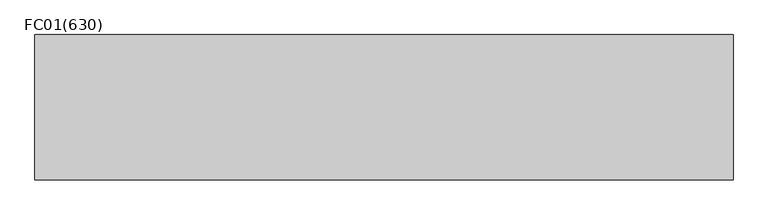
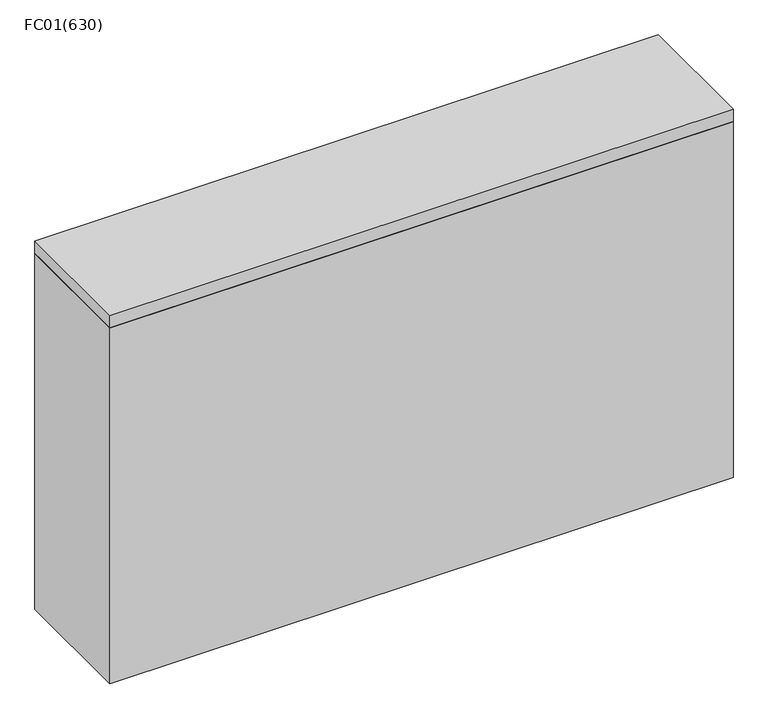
"""IFC4 building model written with IfcOpenShell, lengths in millimetres: proxy geometry, ZYR_03.04.03 Fancoil terra : FC01(630)."""

import ifcopenshell
import ifcopenshell.guid

model = None  # the IFC model being written
_history = None  # IfcOwnerHistory: only IFC2X3 demands one
_inside = {}  # id of a spatial element -> (the spatial element, [elements in it])
_under = {}  # id of a project, library or spatial element -> (it, [spatial elements below it])
_declared = {}  # id of a project -> (the project, [libraries it declares])
_typed = {}  # id of a type object -> (the type object, [elements of that type])
_made_of = {}  # id of a material, layer set ... -> (it, [elements and type objects made of it])


def new_model(schema):
    """Start an empty IFC model of exactly this schema.

    Asked for "IFC4X3", IfcOpenShell would pick the latest addendum, in which some entities
    have other attributes; the version numbers below select the first issue.
    IFC2X3 requires an IfcOwnerHistory on every rooted entity: one is made here for all.
    """
    global model, _history
    if schema == "IFC4X3":
        model = ifcopenshell.file(schema_version=(4, 3, 0, 0))
    else:
        model = ifcopenshell.file(schema=schema)
    _inside.clear()
    _under.clear()
    _declared.clear()
    _typed.clear()
    _made_of.clear()
    _history = None
    if model.schema == "IFC2X3":
        org = make("IfcOrganization", Name="unknown")
        user = make(
            "IfcPersonAndOrganization",
            ThePerson=make("IfcPerson", FamilyName="unknown"),
            TheOrganization=org,
        )
        app = make(
            "IfcApplication",
            ApplicationDeveloper=org,
            Version="unknown",
            ApplicationFullName="unknown",
            ApplicationIdentifier="unknown",
        )
        _history = make(
            "IfcOwnerHistory",
            OwningUser=user,
            OwningApplication=app,
            ChangeAction="ADDED",
            CreationDate=0,
        )
    return model


def make(cls, **values):
    """One entity of the class cls with the attributes given. An attribute that is None is left unset."""
    return model.create_entity(
        cls, **{name: value for name, value in values.items() if value is not None}
    )


def rooted(cls, **values):
    """An entity with a GlobalId (a new one), such as an element, a storey or a relation."""
    return make(cls, GlobalId=ifcopenshell.guid.new(), OwnerHistory=_history, **values)


def si_unit(unit_type, name, prefix=None):
    """IfcSIUnit, for example si_unit("LENGTHUNIT", "METRE", prefix="MILLI")."""
    return make("IfcSIUnit", UnitType=unit_type, Prefix=prefix, Name=name)


def assignment(units):
    """IfcUnitAssignment: the units of a project."""
    return None if units is None else make("IfcUnitAssignment", Units=units)


def point(xyz):
    """IfcCartesianPoint."""
    return None if xyz is None else make("IfcCartesianPoint", Coordinates=xyz)


def direction(xyz):
    """IfcDirection."""
    return None if xyz is None else make("IfcDirection", DirectionRatios=xyz)


def frame(location, z_axis=None, x_axis=None):
    """IfcAxis2Placement3D, a coordinate frame: its origin and axes. An axis left out is left unset."""
    return make(
        "IfcAxis2Placement3D",
        Location=point(location),
        Axis=direction(z_axis),
        RefDirection=direction(x_axis),
    )


def origin():
    """The frame at (0, 0, 0) with its axes left unset."""
    return frame((0.0, 0.0, 0.0))


def origin_with_axes():
    """The frame at (0, 0, 0) with the z axis (0, 0, 1) and the x axis (1, 0, 0) written out."""
    return frame((0.0, 0.0, 0.0), z_axis=(0.0, 0.0, 1.0), x_axis=(1.0, 0.0, 0.0))


def place(relative_to, where):
    """IfcLocalPlacement: puts the frame where relative to a parent placement (None: the world)."""
    return make(
        "IfcLocalPlacement", PlacementRelTo=relative_to, RelativePlacement=where
    )


def context(
    kind, dimensions, precision=None, world=None, true_north=None, identifier=None
):
    """IfcGeometricRepresentationContext, for example the 3D "Model" context."""
    return make(
        "IfcGeometricRepresentationContext",
        ContextIdentifier=identifier,
        ContextType=kind,
        CoordinateSpaceDimension=dimensions,
        Precision=precision,
        WorldCoordinateSystem=world,
        TrueNorth=true_north,
    )


def project(units=None, contexts=None):
    """IfcProject with its units and contexts."""
    return rooted(
        "IfcProject",
        Name="project",
        RepresentationContexts=contexts,
        UnitsInContext=assignment(units),
    )


def spatial(cls, under=None, at=None, **own):
    """A site, building, storey or space (cls), placed at a placement, below another one or the project."""
    s = rooted(cls, ObjectPlacement=at, **own)
    if under is not None:
        _under.setdefault(under.id(), (under, []))[1].append(s)
    return s


def polyline(points):
    """IfcPolyline through the points."""
    return make("IfcPolyline", Points=[point(p) for p in points])


def outline(outer, holes=None, kind="AREA"):
    """IfcArbitraryClosedProfileDef: a profile drawn as a closed curve; with holes, ...WithVoids."""
    if holes is None:
        return make("IfcArbitraryClosedProfileDef", ProfileType=kind, OuterCurve=outer)
    return make(
        "IfcArbitraryProfileDefWithVoids",
        ProfileType=kind,
        OuterCurve=outer,
        InnerCurves=holes,
    )


def extrude(swept, where, along, depth):
    """IfcExtrudedAreaSolid: the profile swept, set in the frame where, extruded along a direction by depth."""
    return make(
        "IfcExtrudedAreaSolid",
        SweptArea=swept,
        Position=where,
        ExtrudedDirection=direction(along),
        Depth=depth,
    )


def shape(context_of_items, identifier, shape_type, items):
    """IfcShapeRepresentation: the items that make up one representation, for example the "Body"."""
    return make(
        "IfcShapeRepresentation",
        ContextOfItems=context_of_items,
        RepresentationIdentifier=identifier,
        RepresentationType=shape_type,
        Items=items,
    )


def source(mapping_origin, context_of_items, identifier, shape_type, items):
    """IfcRepresentationMap: a shape defined once, which mapped items show again and again."""
    return make(
        "IfcRepresentationMap",
        MappingOrigin=mapping_origin,
        MappedRepresentation=shape(context_of_items, identifier, shape_type, items),
    )


def transform(
    local_origin,
    x_axis=None,
    y_axis=None,
    z_axis=None,
    scale=None,
    scale2=None,
    scale3=None,
    uniform=True,
):
    """IfcCartesianTransformationOperator3D, or its non-uniform kind. x_axis, y_axis, z_axis: its Axis1, 2, 3."""
    if uniform:
        return make(
            "IfcCartesianTransformationOperator3D",
            Axis1=direction(x_axis),
            Axis2=direction(y_axis),
            LocalOrigin=point(local_origin),
            Scale=scale,
            Axis3=direction(z_axis),
        )
    return make(
        "IfcCartesianTransformationOperator3DnonUniform",
        Axis1=direction(x_axis),
        Axis2=direction(y_axis),
        LocalOrigin=point(local_origin),
        Scale=scale,
        Axis3=direction(z_axis),
        Scale2=scale2,
        Scale3=scale3,
    )


def mapped(mapping_source, mapping_target):
    """IfcMappedItem: shows the shape of a source again, moved by a transform."""
    return make(
        "IfcMappedItem", MappingSource=mapping_source, MappingTarget=mapping_target
    )


def made_of(thing, what):
    """Note that an element or type object is made of a material, layer set ...; save() writes the relation."""
    if what is not None:
        _made_of.setdefault(what.id(), (what, []))[1].append(thing)
    return thing


def element(
    cls,
    number,
    at=None,
    inside=None,
    cuts=None,
    type_object=None,
    material=None,
    context=None,
    identifier="Body",
    shape_type=None,
    held_by="IfcProductDefinitionShape",
    body=None,
    shapes=None,
    **own,
):
    """One element of the class cls, such as IfcWall. Its Tag is "e" and its number.

    at: its placement. inside: the storey or other place that contains it. cuts: it is an
    opening in that element (IfcRelVoidsElement). A single representation is given by context,
    identifier, shape_type and body (its items); several are given by shapes. held_by: the class
    of the entity that holds the representations. save() writes the other relations.
    """
    e = rooted(cls, Tag="e%d" % number, ObjectPlacement=at, **own)
    if body is not None:
        shapes = [shape(context, identifier, shape_type, body)]
    if shapes is not None:
        e.Representation = make(held_by, Representations=shapes)
    if inside is not None:
        _inside.setdefault(inside.id(), (inside, []))[1].append(e)
    if cuts is not None:
        rooted(
            "IfcRelVoidsElement", RelatingBuildingElement=cuts, RelatedOpeningElement=e
        )
    if type_object is not None:
        _typed.setdefault(type_object.id(), (type_object, []))[1].append(e)
    return made_of(e, material)


def aggregate(whole, parts):
    """IfcRelAggregates: a whole, such as a stair, and the parts it consists of."""
    return rooted("IfcRelAggregates", RelatingObject=whole, RelatedObjects=parts)


def save(model, path):
    """Write the relations noted so far, then the file.

    IfcRelAggregates (storeys below a building ...), IfcRelContainedInSpatialStructure (elements
    in a storey), IfcRelDefinesByType, IfcRelAssociatesMaterial and IfcRelDeclares: one each for
    every whole, place, type object, material and project.
    """
    for whole, parts in _under.values():
        aggregate(whole, parts)
    for where, things in _inside.values():
        rooted(
            "IfcRelContainedInSpatialStructure",
            RelatedElements=things,
            RelatingStructure=where,
        )
    for kind, things in _typed.values():
        rooted("IfcRelDefinesByType", RelatedObjects=things, RelatingType=kind)
    for what, things in _made_of.values():
        rooted("IfcRelAssociatesMaterial", RelatedObjects=things, RelatingMaterial=what)
    for by, libraries in _declared.values():
        rooted("IfcRelDeclares", RelatingContext=by, RelatedDefinitions=libraries)
    model.write(path)


def fc01_630_643033fa(model_context):
    return source(origin(), model_context, "Body", "SweptSolid", [
        extrude(outline(polyline([(600.0, 125.0), (600.0, -125.0), (-600.0, -125.0), (-600.0, 125.0), (600.0, 125.0)])), origin_with_axes(), (0.0, 0.0, 1.0), 725.0),
        extrude(outline(polyline([(600.0, 125.0), (600.0, -125.0), (-600.0, -125.0), (-600.0, 125.0), (600.0, 125.0)])), frame((0.0, 0.0, 725.0), z_axis=(0.0, 0.0, 1.0), x_axis=(1.0, 0.0, 0.0)), (0.0, 0.0, 1.0), 25.0),
    ])


if __name__ == "__main__":
    model = new_model("IFC4")
    model_context = context("Model", 3, world=origin())
    ifc_project = project(units=[si_unit("LENGTHUNIT", "METRE", prefix="MILLI")], contexts=[model_context])
    site = spatial("IfcSite", under=ifc_project)
    building = spatial("IfcBuilding", under=site)
    placement = place(None, origin())
    fc01_630_shape = fc01_630_643033fa(model_context)
    element("IfcBuildingElementProxy", 1, Name="ZYR_03.04.03 Fancoil terra : FC01(630)", ObjectType="ZYR_03.04.03 Fancoil terra : FC01(630)", at=placement, inside=building, context=model_context, shape_type="MappedRepresentation", body=[
        mapped(fc01_630_shape, transform((0.0, 0.0, 0.0), x_axis=(1.0, 0.0, 0.0), y_axis=(0.0, 1.0, 0.0), z_axis=(0.0, 0.0, 1.0))),
    ])
    save(model, "model.ifc")
